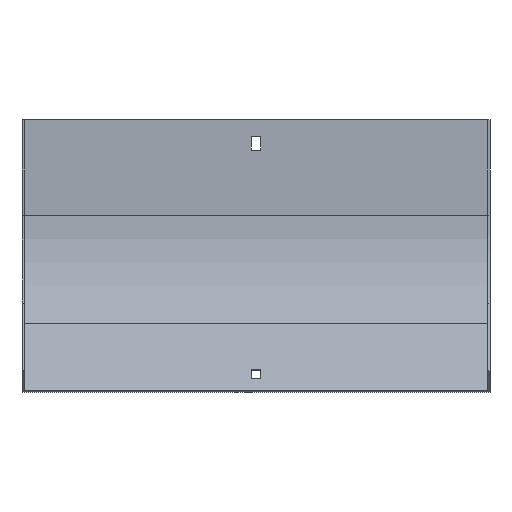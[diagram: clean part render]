
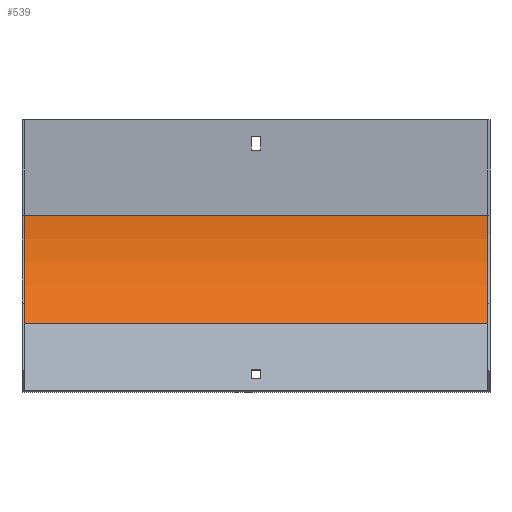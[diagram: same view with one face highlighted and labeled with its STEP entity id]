
A CAD part, front view. The second image highlights one B-rep face of the part: STEP entity #539.
In plain terms, the highlighted cylindrical face has radius 100 mm (diameter 200 mm), a partial arc.
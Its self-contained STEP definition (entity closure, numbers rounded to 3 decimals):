
#4 = DIRECTION ( 'NONE',  ( 0., 0., 1. ) ) ;
#67 = DIRECTION ( 'NONE',  ( -1., 0., 0. ) ) ;
#120 = EDGE_CURVE ( 'NONE', #702, #412, #166, .T. ) ;
#162 = CARTESIAN_POINT ( 'NONE',  ( -152., -1.5, -62.73 ) ) ;
#166 = CIRCLE ( 'NONE', #195, 100. ) ;
#176 = LINE ( 'NONE', #456, #408 ) ;
#194 = CARTESIAN_POINT ( 'NONE',  ( -152., -30.789, -133.441 ) ) ;
#195 = AXIS2_PLACEMENT_3D ( 'NONE', #285, #560, #813 ) ;
#202 = DIRECTION ( 'NONE',  ( -1., 0., 0. ) ) ;
#206 = LINE ( 'NONE', #273, #793 ) ;
#211 = ORIENTED_EDGE ( 'NONE', *, *, #261, .F. ) ;
#258 = CARTESIAN_POINT ( 'NONE',  ( 152., -1.5, -62.73 ) ) ;
#261 = EDGE_CURVE ( 'NONE', #527, #264, #275, .T. ) ;
#264 = VERTEX_POINT ( 'NONE', #162 ) ;
#273 = CARTESIAN_POINT ( 'NONE',  ( 153.5, -1.5, -62.73 ) ) ;
#275 = CIRCLE ( 'NONE', #492, 100. ) ;
#285 = CARTESIAN_POINT ( 'NONE',  ( 152., -101.5, -62.73 ) ) ;
#313 = ORIENTED_EDGE ( 'NONE', *, *, #120, .T. ) ;
#341 = AXIS2_PLACEMENT_3D ( 'NONE', #613, #202, #4 ) ;
#408 = VECTOR ( 'NONE', #715, 1000. ) ;
#412 = VERTEX_POINT ( 'NONE', #258 ) ;
#445 = EDGE_CURVE ( 'NONE', #702, #527, #176, .T. ) ;
#456 = CARTESIAN_POINT ( 'NONE',  ( 153.5, -30.789, -133.441 ) ) ;
#474 = EDGE_CURVE ( 'NONE', #412, #264, #206, .T. ) ;
#480 = FACE_OUTER_BOUND ( 'NONE', #573, .T. ) ;
#492 = AXIS2_PLACEMENT_3D ( 'NONE', #814, #506, #635 ) ;
#506 = DIRECTION ( 'NONE',  ( 1., 0., 0. ) ) ;
#527 = VERTEX_POINT ( 'NONE', #194 ) ;
#539 = ADVANCED_FACE ( 'NONE', ( #480 ), #674, .F. ) ;
#560 = DIRECTION ( 'NONE',  ( 1., 0., 0. ) ) ;
#573 = EDGE_LOOP ( 'NONE', ( #211, #585, #313, #596 ) ) ;
#585 = ORIENTED_EDGE ( 'NONE', *, *, #445, .F. ) ;
#596 = ORIENTED_EDGE ( 'NONE', *, *, #474, .T. ) ;
#613 = CARTESIAN_POINT ( 'NONE',  ( 153.5, -101.5, -62.73 ) ) ;
#635 = DIRECTION ( 'NONE',  ( 0., 0., 1. ) ) ;
#637 = CARTESIAN_POINT ( 'NONE',  ( 152., -30.789, -133.441 ) ) ;
#674 = CYLINDRICAL_SURFACE ( 'NONE', #341, 100. ) ;
#702 = VERTEX_POINT ( 'NONE', #637 ) ;
#715 = DIRECTION ( 'NONE',  ( -1., 0., 0. ) ) ;
#793 = VECTOR ( 'NONE', #67, 1000. ) ;
#813 = DIRECTION ( 'NONE',  ( 0., 0., 1. ) ) ;
#814 = CARTESIAN_POINT ( 'NONE',  ( -152., -101.5, -62.73 ) ) ;
